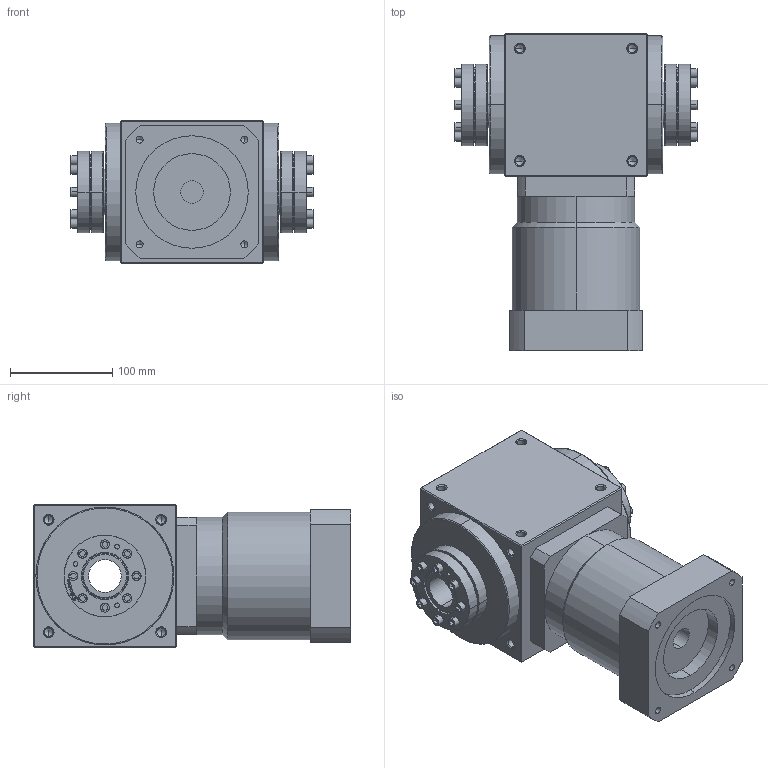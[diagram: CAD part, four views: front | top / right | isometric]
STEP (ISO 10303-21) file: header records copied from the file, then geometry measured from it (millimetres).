
FILE_DESCRIPTION (( 'STEP AP214' ), '1' );
FILE_NAME ('AT140-FCK-L2--19-70-90-M6.STEP', '2020-11-19T03:00:45', ( '微软用户' ), ( '微软中国' ), 'SwSTEP 2.0', 'SolidWorks 2014', '' );
FILE_SCHEMA (( 'AUTOMOTIVE_DESIGN' ));
Length unit declared in the file: millimetre
Products named in the file (6): AT140-FCK-L1-L2_1; AT140-FCK-L2--19-70-90-M6; 83_44x80_1
Assembly tree (3 placements, depth 2):
  AT140-FCK-L1-L2_1
  AT140-FCK-L2--19-70-90-M6
    AT140-FCK-L1-L2_1
    83_44x80_1  x2
  83_44x80_1
  83_44x80_1
Bounding box: 237.2 x 310.5 x 140 mm (x, y, z)
Volume: 5302147.2 mm3; surface area: 361407.9 mm2
Topology: 26 solids, 26 shells, 1233 faces, 2880 edges, 1712 vertices
Faces by surface type: cylinder 536, plane 311, cone 270, torus 112, bspline 4
Entity records: 29137 total; most frequent: CARTESIAN_POINT 4227, DIRECTION 3716, ORIENTED_EDGE 3460, EDGE_CURVE 1730, AXIS2_PLACEMENT_3D 1443, VERTEX_POINT 1042, EDGE_LOOP 860, LINE 830
